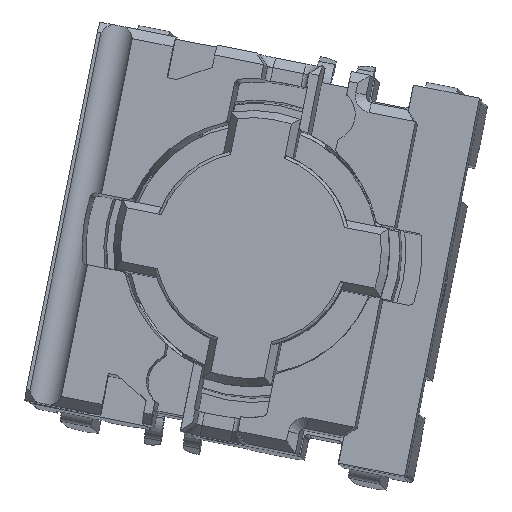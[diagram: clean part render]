
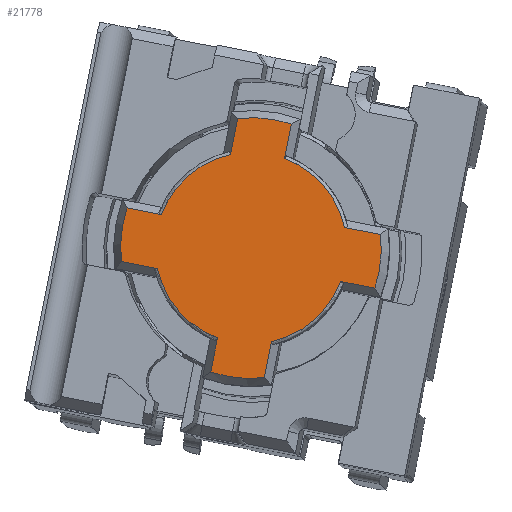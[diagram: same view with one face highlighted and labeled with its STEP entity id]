
A CAD part, top view. The second image highlights one B-rep face of the part: STEP entity #21778.
In plain terms, the highlighted planar face has unit normal (-0.042, 0.034, 0.999) as drawn and (0, 0, 1) by its records, which use the part's own axes.
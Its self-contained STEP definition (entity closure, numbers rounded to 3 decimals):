
#18486=CARTESIAN_POINT('',(2.455,-0.398,16.567));
#18487=VERTEX_POINT('',#18486);
#18520=CARTESIAN_POINT('',(3.36,-0.398,16.567));
#18521=VERTEX_POINT('',#18520);
#18528=CARTESIAN_POINT('',(3.36,-0.398,16.567));
#18529=DIRECTION('',(-1.0,0.0,0.0));
#18530=VECTOR('',#18529,0.904);
#18531=LINE('',#18528,#18530);
#18532=EDGE_CURVE('',#18521,#18487,#18531,.T.);
#18582=CARTESIAN_POINT('',(0.995,-2.28,16.567));
#18583=VERTEX_POINT('',#18582);
#18591=CARTESIAN_POINT('',(0.995,-3.233,16.567));
#18592=VERTEX_POINT('',#18591);
#18593=CARTESIAN_POINT('',(0.995,-2.28,16.567));
#18594=DIRECTION('',(0.0,-1.0,0.0));
#18595=VECTOR('',#18594,0.954);
#18596=LINE('',#18593,#18595);
#18597=EDGE_CURVE('',#18583,#18592,#18596,.T.);
#18728=CARTESIAN_POINT('',(0.398,2.455,16.567));
#18729=VERTEX_POINT('',#18728);
#18747=CARTESIAN_POINT('',(0.398,3.36,16.567));
#18748=VERTEX_POINT('',#18747);
#18755=CARTESIAN_POINT('',(0.398,3.36,16.567));
#18756=DIRECTION('',(0.0,-1.0,0.0));
#18757=VECTOR('',#18756,0.904);
#18758=LINE('',#18755,#18757);
#18759=EDGE_CURVE('',#18748,#18729,#18758,.T.);
#18788=CARTESIAN_POINT('',(2.28,0.995,16.567));
#18789=VERTEX_POINT('',#18788);
#18797=CARTESIAN_POINT('',(3.233,0.995,16.567));
#18798=VERTEX_POINT('',#18797);
#18799=CARTESIAN_POINT('',(2.28,0.995,16.567));
#18800=DIRECTION('',(1.0,0.0,0.0));
#18801=VECTOR('',#18800,0.954);
#18802=LINE('',#18799,#18801);
#18803=EDGE_CURVE('',#18789,#18798,#18802,.T.);
#19415=CARTESIAN_POINT('',(0.,0.,16.567));
#19416=DIRECTION('',(0.0,0.0,-1.0));
#19417=DIRECTION('',(1.0,0.0,0.0));
#19418=AXIS2_PLACEMENT_3D('',#19415,#19416,#19417);
#19419=CIRCLE('',#19418,3.383);
#19420=EDGE_CURVE('',#18798,#18521,#19419,.T.);
#19792=CARTESIAN_POINT('',(0.,0.,16.567));
#19793=DIRECTION('',(0.0,0.0,-1.0));
#19794=DIRECTION('',(1.0,0.0,0.0));
#19795=AXIS2_PLACEMENT_3D('',#19792,#19793,#19794);
#19796=CIRCLE('',#19795,2.488);
#19797=EDGE_CURVE('',#18487,#18583,#19796,.T.);
#19824=CARTESIAN_POINT('',(0.,0.,16.567));
#19825=DIRECTION('',(0.0,0.0,-1.0));
#19826=DIRECTION('',(1.0,0.0,0.0));
#19827=AXIS2_PLACEMENT_3D('',#19824,#19825,#19826);
#19828=CIRCLE('',#19827,2.488);
#19829=EDGE_CURVE('',#18729,#18789,#19828,.T.);
#20192=CARTESIAN_POINT('',(-2.455,0.398,16.567));
#20193=VERTEX_POINT('',#20192);
#20226=CARTESIAN_POINT('',(-3.36,0.398,16.567));
#20227=VERTEX_POINT('',#20226);
#20234=CARTESIAN_POINT('',(-3.36,0.398,16.567));
#20235=DIRECTION('',(1.0,0.0,0.0));
#20236=VECTOR('',#20235,0.904);
#20237=LINE('',#20234,#20236);
#20238=EDGE_CURVE('',#20227,#20193,#20237,.T.);
#20288=CARTESIAN_POINT('',(-0.995,2.28,16.567));
#20289=VERTEX_POINT('',#20288);
#20297=CARTESIAN_POINT('',(-0.995,3.233,16.567));
#20298=VERTEX_POINT('',#20297);
#20299=CARTESIAN_POINT('',(-0.995,2.28,16.567));
#20300=DIRECTION('',(0.0,1.0,0.0));
#20301=VECTOR('',#20300,0.954);
#20302=LINE('',#20299,#20301);
#20303=EDGE_CURVE('',#20289,#20298,#20302,.T.);
#20345=CARTESIAN_POINT('',(0.,0.,16.567));
#20346=DIRECTION('',(0.0,0.0,-1.0));
#20347=DIRECTION('',(-1.0,0.0,0.0));
#20348=AXIS2_PLACEMENT_3D('',#20345,#20346,#20347);
#20349=CIRCLE('',#20348,3.383);
#20350=EDGE_CURVE('',#20298,#18748,#20349,.T.);
#20607=CARTESIAN_POINT('',(-0.398,-2.455,16.567));
#20608=VERTEX_POINT('',#20607);
#20626=CARTESIAN_POINT('',(-0.398,-3.36,16.567));
#20627=VERTEX_POINT('',#20626);
#20634=CARTESIAN_POINT('',(-0.398,-3.36,16.567));
#20635=DIRECTION('',(0.0,1.0,0.0));
#20636=VECTOR('',#20635,0.904);
#20637=LINE('',#20634,#20636);
#20638=EDGE_CURVE('',#20627,#20608,#20637,.T.);
#20667=CARTESIAN_POINT('',(-2.28,-0.995,16.567));
#20668=VERTEX_POINT('',#20667);
#20676=CARTESIAN_POINT('',(-3.233,-0.995,16.567));
#20677=VERTEX_POINT('',#20676);
#20678=CARTESIAN_POINT('',(-2.28,-0.995,16.567));
#20679=DIRECTION('',(-1.0,0.0,0.0));
#20680=VECTOR('',#20679,0.954);
#20681=LINE('',#20678,#20680);
#20682=EDGE_CURVE('',#20668,#20677,#20681,.T.);
#21386=CARTESIAN_POINT('',(0.,0.,16.567));
#21387=DIRECTION('',(0.0,0.0,-1.0));
#21388=DIRECTION('',(1.0,0.0,0.0));
#21389=AXIS2_PLACEMENT_3D('',#21386,#21387,#21388);
#21390=CIRCLE('',#21389,3.383);
#21391=EDGE_CURVE('',#18592,#20627,#21390,.T.);
#21434=CARTESIAN_POINT('',(0.,0.,16.567));
#21435=DIRECTION('',(0.0,0.0,-1.0));
#21436=DIRECTION('',(-1.0,0.0,0.0));
#21437=AXIS2_PLACEMENT_3D('',#21434,#21435,#21436);
#21438=CIRCLE('',#21437,3.383);
#21439=EDGE_CURVE('',#20677,#20227,#21438,.T.);
#21743=CARTESIAN_POINT('',(0.,0.,16.567));
#21744=DIRECTION('',(0.0,0.0,-1.0));
#21745=DIRECTION('',(-1.0,0.0,0.0));
#21746=AXIS2_PLACEMENT_3D('',#21743,#21744,#21745);
#21747=PLANE('',#21746);
#21748=ORIENTED_EDGE('',*,*,#20350,.F.);
#21749=ORIENTED_EDGE('',*,*,#20303,.F.);
#21750=CARTESIAN_POINT('',(0.,0.,16.567));
#21751=DIRECTION('',(0.0,0.0,-1.0));
#21752=DIRECTION('',(-1.0,0.0,0.0));
#21753=AXIS2_PLACEMENT_3D('',#21750,#21751,#21752);
#21754=CIRCLE('',#21753,2.488);
#21755=EDGE_CURVE('',#20193,#20289,#21754,.T.);
#21756=ORIENTED_EDGE('',*,*,#21755,.F.);
#21757=ORIENTED_EDGE('',*,*,#20238,.F.);
#21758=ORIENTED_EDGE('',*,*,#21439,.F.);
#21759=ORIENTED_EDGE('',*,*,#20682,.F.);
#21760=CARTESIAN_POINT('',(0.,0.,16.567));
#21761=DIRECTION('',(0.0,0.0,-1.0));
#21762=DIRECTION('',(-1.0,0.0,0.0));
#21763=AXIS2_PLACEMENT_3D('',#21760,#21761,#21762);
#21764=CIRCLE('',#21763,2.488);
#21765=EDGE_CURVE('',#20608,#20668,#21764,.T.);
#21766=ORIENTED_EDGE('',*,*,#21765,.F.);
#21767=ORIENTED_EDGE('',*,*,#20638,.F.);
#21768=ORIENTED_EDGE('',*,*,#21391,.F.);
#21769=ORIENTED_EDGE('',*,*,#18597,.F.);
#21770=ORIENTED_EDGE('',*,*,#19797,.F.);
#21771=ORIENTED_EDGE('',*,*,#18532,.F.);
#21772=ORIENTED_EDGE('',*,*,#19420,.F.);
#21773=ORIENTED_EDGE('',*,*,#18803,.F.);
#21774=ORIENTED_EDGE('',*,*,#19829,.F.);
#21775=ORIENTED_EDGE('',*,*,#18759,.F.);
#21776=EDGE_LOOP('',(#21748,#21749,#21756,#21757,#21758,#21759,#21766,#21767,#21768,#21769,#21770,#21771,#21772,#21773,#21774,#21775));
#21777=FACE_OUTER_BOUND('',#21776,.T.);
#21778=ADVANCED_FACE('',(#21777),#21747,.F.);
